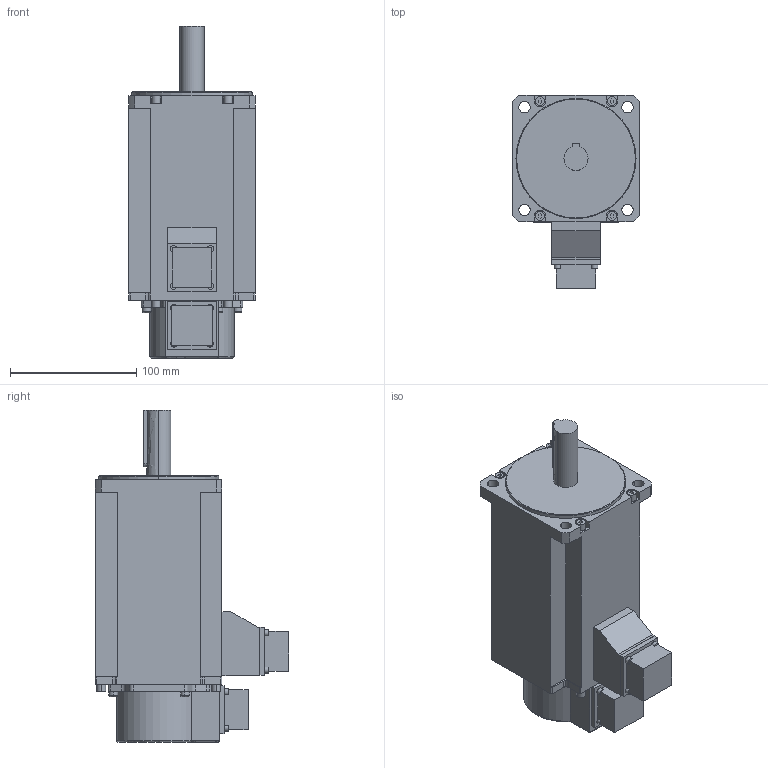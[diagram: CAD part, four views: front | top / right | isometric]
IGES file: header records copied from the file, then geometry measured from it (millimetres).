
Start section:  PTC IGES file: rsms_15atk3-070830.igs
Global section: file name: rsms_15atk3-070830.igs; native system: Pro/ENGINEER by Parametric Technology Corporation; preprocessor: 2004440; author: Administrator; organization: Unknown; date: 070830.161032; units: millimetre
Bounding box: 100 x 152.7 x 262.5 mm (x, y, z)
Volume: 1775432.8 mm3; surface area: 114514.5 mm2
Topology: 1 solids, 1 shells, 270 faces, 708 edges, 464 vertices
Faces by surface type: bspline 171, revolution 99
